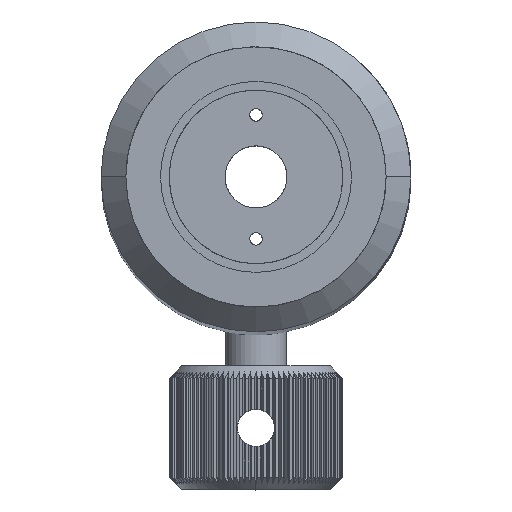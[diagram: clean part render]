
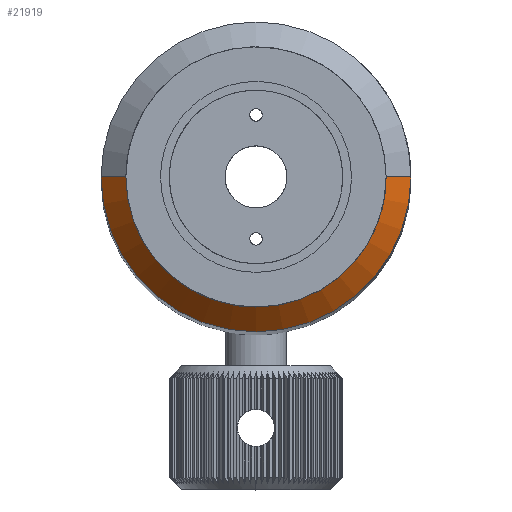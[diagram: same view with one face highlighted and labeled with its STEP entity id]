
A CAD part, top view. The second image highlights one B-rep face of the part: STEP entity #21919.
In plain terms, the highlighted conical face has half-angle 45 degrees and reference radius 10.5 mm.
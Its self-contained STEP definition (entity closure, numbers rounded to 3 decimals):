
#821 = EDGE_CURVE ( 'NONE', #14306, #15436, #20220, .T. ) ;
#823 = CIRCLE ( 'NONE', #17109, 12.5 ) ;
#3465 = DIRECTION ( 'NONE',  ( 0.707, 0., 0.707 ) ) ;
#4218 = DIRECTION ( 'NONE',  ( 0., 0., -1. ) ) ;
#4315 = DIRECTION ( 'NONE',  ( -1., 0., 0. ) ) ;
#4870 = CIRCLE ( 'NONE', #9883, 10.5 ) ;
#5800 = ORIENTED_EDGE ( 'NONE', *, *, #17441, .F. ) ;
#5882 = CARTESIAN_POINT ( 'NONE',  ( 8.009, -1.338, 75. ) ) ;
#6129 = DIRECTION ( 'NONE',  ( 0., 0., 1. ) ) ;
#7493 = EDGE_CURVE ( 'NONE', #21004, #16797, #12488, .T. ) ;
#7966 = AXIS2_PLACEMENT_3D ( 'NONE', #15073, #14776, #4315 ) ;
#8542 = ORIENTED_EDGE ( 'NONE', *, *, #9358, .F. ) ;
#9358 = EDGE_CURVE ( 'NONE', #15436, #21004, #4870, .T. ) ;
#9883 = AXIS2_PLACEMENT_3D ( 'NONE', #20241, #6129, #13106 ) ;
#11404 = CONICAL_SURFACE ( 'NONE', #7966, 10.5, 0.785 ) ;
#12488 = LINE ( 'NONE', #12717, #14182 ) ;
#12702 = CARTESIAN_POINT ( 'NONE',  ( -12.991, -1.338, 75. ) ) ;
#12717 = CARTESIAN_POINT ( 'NONE',  ( 9.009, -1.338, 74. ) ) ;
#13106 = DIRECTION ( 'NONE',  ( -1., 0., 0. ) ) ;
#13484 = CARTESIAN_POINT ( 'NONE',  ( -14.991, -1.338, 73. ) ) ;
#14182 = VECTOR ( 'NONE', #14527, 1000. ) ;
#14306 = VERTEX_POINT ( 'NONE', #13484 ) ;
#14527 = DIRECTION ( 'NONE',  ( 0.707, 0., -0.707 ) ) ;
#14776 = DIRECTION ( 'NONE',  ( 0., 0., -1. ) ) ;
#15073 = CARTESIAN_POINT ( 'NONE',  ( -2.491, -1.338, 75. ) ) ;
#15436 = VERTEX_POINT ( 'NONE', #12702 ) ;
#15661 = EDGE_LOOP ( 'NONE', ( #8542, #16444, #5800, #17996 ) ) ;
#16444 = ORIENTED_EDGE ( 'NONE', *, *, #821, .F. ) ;
#16797 = VERTEX_POINT ( 'NONE', #21529 ) ;
#17109 = AXIS2_PLACEMENT_3D ( 'NONE', #18812, #4218, #20304 ) ;
#17237 = FACE_OUTER_BOUND ( 'NONE', #15661, .T. ) ;
#17441 = EDGE_CURVE ( 'NONE', #16797, #14306, #823, .T. ) ;
#17996 = ORIENTED_EDGE ( 'NONE', *, *, #7493, .F. ) ;
#18812 = CARTESIAN_POINT ( 'NONE',  ( -2.491, -1.338, 73. ) ) ;
#19480 = CARTESIAN_POINT ( 'NONE',  ( -13.991, -1.338, 74. ) ) ;
#20220 = LINE ( 'NONE', #19480, #21346 ) ;
#20241 = CARTESIAN_POINT ( 'NONE',  ( -2.491, -1.338, 75. ) ) ;
#20304 = DIRECTION ( 'NONE',  ( -1., 0., 0. ) ) ;
#21004 = VERTEX_POINT ( 'NONE', #5882 ) ;
#21346 = VECTOR ( 'NONE', #3465, 1000. ) ;
#21529 = CARTESIAN_POINT ( 'NONE',  ( 10.009, -1.338, 73. ) ) ;
#21919 = ADVANCED_FACE ( 'NONE', ( #17237 ), #11404, .T. ) ;
